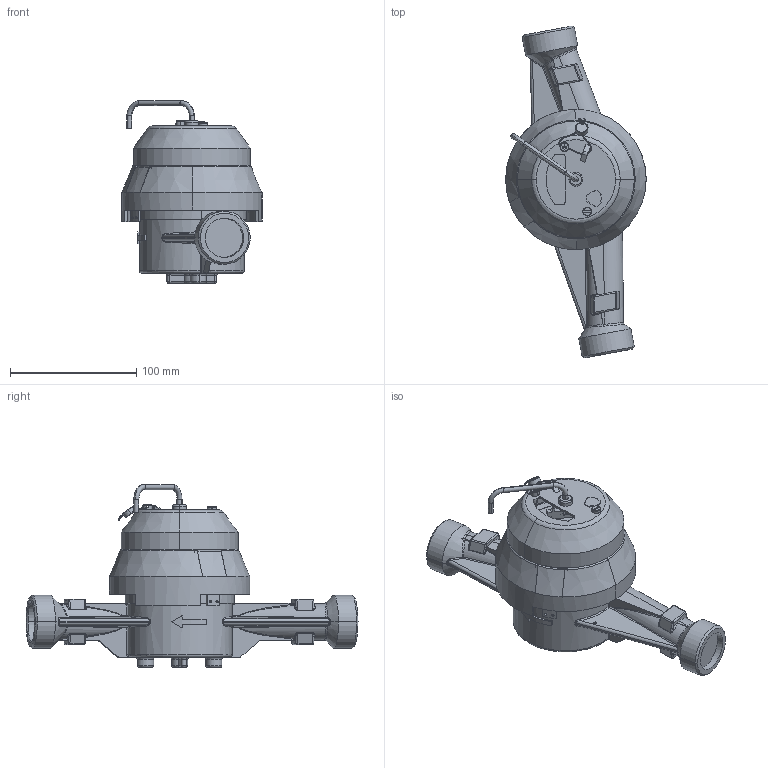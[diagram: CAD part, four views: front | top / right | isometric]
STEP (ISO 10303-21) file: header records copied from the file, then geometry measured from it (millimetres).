
FILE_DESCRIPTION (( 'STEP AP214' ), '1' );
FILE_NAME ('JS130-6-G1_1_4-NC.STEP', '2025-07-31T12:09:40', ( '' ), ( '' ), 'SwSTEP 2.0', 'SolidWorks 2019', '' );
FILE_SCHEMA (( 'AUTOMOTIVE_DESIGN' ));
Length unit declared in the file: millimetre
Products named in the file (1): JS130-6-G1_1_4-NC
Bounding box: 111.19 x 262.71 x 144.67 mm (x, y, z)
Volume: 677362.5 mm3; surface area: 156943.5 mm2
Topology: 16 solids, 21 shells, 1011 faces, 2617 edges, 1627 vertices
Faces by surface type: plane 445, cylinder 316, bspline 84, torus 73, cone 69, sphere 24
Entity records: 47835 total; most frequent: CARTESIAN_POINT 12610, ORIENTED_EDGE 5178, DIRECTION 4906, EDGE_CURVE 2589, AXIS2_PLACEMENT_3D 1796, VERTEX_POINT 1627, VECTOR 1314, LINE 1314
